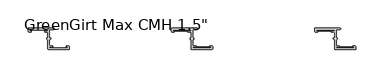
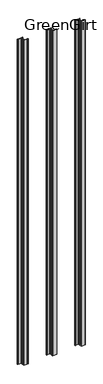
"""IFC4 building model written with IfcOpenShell, lengths in millimetres: fastener geometry."""

from ifc_helpers import new_model, si_unit, frame, origin, origin_with_axes, place, context, project, spatial, polyline, circle_curve, outline, extrude, source, transform, mapped, element, save
from ifc_brep_helpers import plane_surface, cylinder_surface, revolved_surface, advanced_brep


def fastener_7959c945(model_context):
    return source(origin(), model_context, "Body", "SolidModel", [
        advanced_brep(
        [(2340.102, -3.556, 3048.0), (2371.09, -3.556, 3048.0), (2371.09, -5.2832, 3048.0), (2366.899, -5.2832, 3048.0), (2366.899, -7.3152, 3048.0), (2371.09, -7.3152, 3048.0), (2371.852, -8.0772, 3048.0), (2371.852, -17.7601563, 3048.0), (2371.0035567, -17.7601563, 3048.0), (2371.0035567, -20.4288947, 3048.0), (2371.852, -20.4288947, 3048.0), (2371.852, -37.3379766, 3048.0), (2372.614, -38.0999766, 3048.0), (2408.8513242, -38.1, 3048.0), (2409.571, -37.3379766, 3048.0), (2409.571, -33.7057766, 3048.0), (2407.539, -31.6737766, 3048.0), (2405.253, -31.6737766, 3048.0), (2405.253, -33.7057766, 3048.0), (2406.269, -33.7057766, 3048.0), (2406.269, -35.4329766, 3048.0), (2375.281, -35.4329766, 3048.0), (2375.281, -33.7057766, 3048.0), (2379.472, -33.7057766, 3048.0), (2379.472, -31.6737766, 3048.0), (2375.281, -31.6737766, 3048.0), (2374.519, -30.9117766, 3048.0), (2374.519, -20.4279799, 3048.0), (2375.3679007, -20.4279799, 3048.0), (2375.3679007, -17.7601563, 3048.0), (2374.519, -17.7601563, 3048.0), (2374.519, -3.429, 3048.0), (2375.281, -2.667, 3048.0), (2381.377, -2.667, 3048.0), (2381.377, 0.0, 3048.0), (2337.562, 0.0, 3048.0), (2336.8, -0.762, 3048.0), (2336.8, -5.2832, 3048.0), (2338.832, -7.3152, 3048.0), (2341.118, -7.3152, 3048.0), (2341.118, -5.2832, 3048.0), (2340.102, -5.2832, 3048.0), (2340.102, -3.556, 0.0), (2340.102, -5.2832, 0.0), (2341.118, -5.2832, 0.0), (2341.118, -7.3152, 0.0), (2338.832, -7.3152, 0.0), (2336.8, -5.2832, 0.0), (2336.8, -0.762, 0.0), (2337.562, 0.0, 0.0), (2381.377, 0.0, 0.0), (2381.377, -2.667, 0.0), (2375.281, -2.667, 0.0), (2374.519, -3.429, 0.0), (2374.519, -17.7601563, 0.0), (2375.3679007, -17.7601563, 0.0), (2375.3679007, -20.4279799, 0.0), (2374.519, -20.4279799, 0.0), (2374.519, -30.9117766, 0.0), (2375.281, -31.6737766, 0.0), (2379.472, -31.6737766, 0.0), (2379.472, -33.7057766, 0.0), (2375.281, -33.7057766, 0.0), (2375.281, -35.4329766, 0.0), (2406.269, -35.4329766, 0.0), (2406.269, -33.7057766, 0.0), (2405.253, -33.7057766, 0.0), (2405.253, -31.6737766, 0.0), (2407.539, -31.6737766, 0.0), (2409.571, -33.7057766, 0.0), (2409.571, -37.3379766, 0.0), (2408.809, -38.0999766, 0.0), (2372.7467826, -38.1, 0.0), (2371.852, -37.3379766, 0.0), (2371.852, -20.4288947, 0.0), (2371.0035567, -20.4288947, 0.0), (2371.0035567, -17.7601563, 0.0), (2371.852, -17.7601563, 0.0), (2371.852, -8.0772, 0.0), (2371.09, -7.3152, 0.0), (2366.899, -7.3152, 0.0), (2366.899, -5.2832, 0.0), (2371.09, -5.2832, 0.0), (2371.09, -3.556, 0.0)],
        [
            (0, 1),
            (1, 2, circle_curve(frame((2371.09, -4.4196, 3048.0), z_axis=(0.0, 0.0, -1.0), x_axis=(1.0, 0.0, 0.0)), 0.8636)),
            (2, 3),
            (3, 4, circle_curve(frame((2366.899, -6.2992, 3048.0), z_axis=(0.0, 0.0, 1.0), x_axis=(1.0, 0.0, 0.0)), 1.016)),
            (4, 5),
            (5, 6, circle_curve(frame((2371.09, -8.0772, 3048.0), z_axis=(0.0, 0.0, -1.0), x_axis=(1.0, 0.0, 0.0)), 0.762)),
            (6, 7),
            (7, 8),
            (8, 9, circle_curve(frame((2371.0035567, -19.0945255, 3048.0), z_axis=(0.0, 0.0, 1.0), x_axis=(1.0, 0.0, 0.0)), 1.3343692)),
            (9, 10),
            (10, 11),
            (11, 12, circle_curve(frame((2372.614, -37.3379766, 3048.0), z_axis=(0.0, 0.0, 1.0), x_axis=(1.0, 0.0, 0.0)), 0.762)),
            (12, 13),
            (13, 14, circle_curve(frame((2408.809, -37.3379766, 3048.0), z_axis=(0.0, 0.0, 1.0), x_axis=(1.0, 0.0, 0.0)), 0.762)),
            (14, 15),
            (15, 16, circle_curve(frame((2407.539, -33.7057766, 3048.0), z_axis=(0.0, 0.0, 1.0), x_axis=(1.0, 0.0, 0.0)), 2.032)),
            (16, 17),
            (17, 18, circle_curve(frame((2405.253, -32.6897766, 3048.0), z_axis=(0.0, 0.0, 1.0), x_axis=(1.0, 0.0, 0.0)), 1.016)),
            (18, 19),
            (19, 20, circle_curve(frame((2406.269, -34.5693766, 3048.0), z_axis=(0.0, 0.0, -1.0), x_axis=(1.0, 0.0, 0.0)), 0.8636)),
            (20, 21),
            (21, 22, circle_curve(frame((2375.281, -34.5693766, 3048.0), z_axis=(0.0, 0.0, -1.0), x_axis=(1.0, 0.0, 0.0)), 0.8636)),
            (22, 23),
            (23, 24, circle_curve(frame((2379.472, -32.6897766, 3048.0), z_axis=(0.0, 0.0, 1.0), x_axis=(1.0, 0.0, 0.0)), 1.016)),
            (24, 25),
            (25, 26, circle_curve(frame((2375.281, -30.9117766, 3048.0), z_axis=(0.0, 0.0, -1.0), x_axis=(1.0, 0.0, 0.0)), 0.762)),
            (26, 27),
            (27, 28),
            (28, 29, circle_curve(frame((2375.3679007, -19.0940681, 3048.0), z_axis=(0.0, 0.0, 1.0), x_axis=(1.0, 0.0, 0.0)), 1.3339118)),
            (29, 30),
            (30, 31),
            (31, 32, circle_curve(frame((2375.281, -3.429, 3048.0), z_axis=(0.0, 0.0, -1.0), x_axis=(1.0, 0.0, 0.0)), 0.762)),
            (32, 33),
            (33, 34, circle_curve(frame((2381.377, -1.3335, 3048.0), z_axis=(0.0, 0.0, 1.0), x_axis=(1.0, 0.0, 0.0)), 1.3335)),
            (34, 35),
            (35, 36, circle_curve(frame((2337.562, -0.762, 3048.0), z_axis=(0.0, 0.0, 1.0), x_axis=(1.0, 0.0, 0.0)), 0.762)),
            (36, 37),
            (37, 38, circle_curve(frame((2338.832, -5.2832, 3048.0), z_axis=(0.0, 0.0, 1.0), x_axis=(1.0, 0.0, 0.0)), 2.032)),
            (38, 39),
            (39, 40, circle_curve(frame((2341.118, -6.2992, 3048.0), z_axis=(0.0, 0.0, 1.0), x_axis=(1.0, 0.0, 0.0)), 1.016)),
            (40, 41),
            (41, 0, circle_curve(frame((2340.102, -4.4196, 3048.0), z_axis=(0.0, 0.0, -1.0), x_axis=(1.0, 0.0, 0.0)), 0.8636)),
            (42, 43, circle_curve(frame((2340.102, -4.4196, 0.0), z_axis=(0.0, 0.0, 1.0), x_axis=(1.0, 0.0, 0.0)), 0.8636)),
            (43, 44),
            (44, 45, circle_curve(frame((2341.118, -6.2992, 0.0), z_axis=(0.0, 0.0, -1.0), x_axis=(1.0, 0.0, 0.0)), 1.016)),
            (45, 46),
            (46, 47, circle_curve(frame((2338.832, -5.2832, 0.0), z_axis=(0.0, 0.0, -1.0), x_axis=(1.0, 0.0, 0.0)), 2.032)),
            (47, 48),
            (48, 49, circle_curve(frame((2337.562, -0.762, 0.0), z_axis=(0.0, 0.0, -1.0), x_axis=(1.0, 0.0, 0.0)), 0.762)),
            (49, 50),
            (50, 51, circle_curve(frame((2381.377, -1.3335, 0.0), z_axis=(0.0, 0.0, -1.0), x_axis=(1.0, 0.0, 0.0)), 1.3335)),
            (51, 52),
            (52, 53, circle_curve(frame((2375.281, -3.429, 0.0), z_axis=(0.0, 0.0, 1.0), x_axis=(1.0, 0.0, 0.0)), 0.762)),
            (53, 54),
            (54, 55),
            (55, 56, circle_curve(frame((2375.3679007, -19.0940681, 0.0), z_axis=(0.0, 0.0, -1.0), x_axis=(1.0, 0.0, 0.0)), 1.3339118)),
            (56, 57),
            (57, 58),
            (58, 59, circle_curve(frame((2375.281, -30.9117766, 0.0), z_axis=(0.0, 0.0, 1.0), x_axis=(1.0, 0.0, 0.0)), 0.762)),
            (59, 60),
            (60, 61, circle_curve(frame((2379.472, -32.6897766, 0.0), z_axis=(0.0, 0.0, -1.0), x_axis=(1.0, 0.0, 0.0)), 1.016)),
            (61, 62),
            (62, 63, circle_curve(frame((2375.281, -34.5693766, 0.0), z_axis=(0.0, 0.0, 1.0), x_axis=(1.0, 0.0, 0.0)), 0.8636)),
            (63, 64),
            (64, 65, circle_curve(frame((2406.269, -34.5693766, 0.0), z_axis=(0.0, 0.0, 1.0), x_axis=(1.0, 0.0, 0.0)), 0.8636)),
            (65, 66),
            (66, 67, circle_curve(frame((2405.253, -32.6897766, 0.0), z_axis=(0.0, 0.0, -1.0), x_axis=(1.0, 0.0, 0.0)), 1.016)),
            (67, 68),
            (68, 69, circle_curve(frame((2407.539, -33.7057766, 0.0), z_axis=(0.0, 0.0, -1.0), x_axis=(1.0, 0.0, 0.0)), 2.032)),
            (69, 70),
            (70, 71, circle_curve(frame((2408.809, -37.3379766, 0.0), z_axis=(0.0, 0.0, -1.0), x_axis=(1.0, 0.0, 0.0)), 0.762)),
            (71, 72),
            (72, 73, circle_curve(frame((2372.614, -37.3379766, 0.0), z_axis=(0.0, 0.0, -1.0), x_axis=(1.0, 0.0, 0.0)), 0.762)),
            (73, 74),
            (74, 75),
            (75, 76, circle_curve(frame((2371.0035567, -19.0945255, 0.0), z_axis=(0.0, 0.0, -1.0), x_axis=(1.0, 0.0, 0.0)), 1.3343692)),
            (76, 77),
            (77, 78),
            (78, 79, circle_curve(frame((2371.09, -8.0772, 0.0), z_axis=(0.0, 0.0, 1.0), x_axis=(1.0, 0.0, 0.0)), 0.762)),
            (79, 80),
            (80, 81, circle_curve(frame((2366.899, -6.2992, 0.0), z_axis=(0.0, 0.0, -1.0), x_axis=(1.0, 0.0, 0.0)), 1.016)),
            (81, 82),
            (82, 83, circle_curve(frame((2371.09, -4.4196, 0.0), z_axis=(0.0, 0.0, 1.0), x_axis=(1.0, 0.0, 0.0)), 0.8636)),
            (83, 42),
            (0, 42),
            (83, 1),
            (82, 2),
            (81, 3),
            (80, 4),
            (79, 5),
            (78, 6),
            (77, 7),
            (76, 8),
            (75, 9),
            (74, 10),
            (73, 11),
            (72, 12),
            (71, 13),
            (70, 14),
            (69, 15),
            (68, 16),
            (67, 17),
            (66, 18),
            (65, 19),
            (64, 20),
            (63, 21),
            (62, 22),
            (61, 23),
            (60, 24),
            (59, 25),
            (58, 26),
            (57, 27),
            (56, 28),
            (55, 29),
            (54, 30),
            (53, 31),
            (52, 32),
            (51, 33),
            (50, 34),
            (49, 35),
            (48, 36),
            (47, 37),
            (46, 38),
            (45, 39),
            (44, 40),
            (43, 41),
        ],
        [
            plane_surface(frame((2371.09, -3.556, 3048.0), z_axis=(0.0, 0.0, 1.0), x_axis=(1.0, 0.0, 0.0))),
            plane_surface(frame((2371.09, -3.556, 0.0), z_axis=(0.0, 0.0, -1.0), x_axis=(-1.0, 0.0, 0.0))),
            plane_surface(frame((2340.102, -3.556, 3048.0), z_axis=(0.0, -1.0, 0.0), x_axis=(0.0, 0.0, -1.0))),
            revolved_surface(polyline([(2371.9536000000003, -4.4196, 0.0), (2371.9536000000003, -4.4196, 3048.0)]), (2371.09, -4.4196, 0.0), (0.0, 0.0, -1.0)),
            plane_surface(frame((2371.09, -5.2832, 3048.0), z_axis=(0.0, 1.0, 0.0), x_axis=(0.0, 0.0, -1.0))),
            cylinder_surface(frame((2366.899, -6.2992, 0.0), z_axis=(0.0, 0.0, 1.0), x_axis=(1.0, 0.0, 0.0)), 1.016),
            plane_surface(frame((2366.899, -7.3152, 3048.0), z_axis=(0.0, -1.0, 0.0), x_axis=(0.0, 0.0, -1.0))),
            revolved_surface(polyline([(2371.8520000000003, -8.0772, 0.0), (2371.8520000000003, -8.0772, 3048.0)]), (2371.09, -8.0772, 0.0), (0.0, 0.0, -1.0)),
            plane_surface(frame((2371.852, -8.0772, 3048.0), z_axis=(-1.0, 0.0, 0.0), x_axis=(0.0, 0.0, -1.0))),
            plane_surface(frame((2371.852, -17.7601563, 3048.0), z_axis=(0.0, 1.0, 0.0), x_axis=(0.0, 0.0, -1.0))),
            cylinder_surface(frame((2371.0035567, -19.0945255, 0.0), z_axis=(0.0, 0.0, 1.0), x_axis=(1.0, 0.0, 0.0)), 1.3343692),
            plane_surface(frame((2371.0035567, -20.4288947, 3048.0), z_axis=(0.0, -1.0, 0.0), x_axis=(0.0, 0.0, -1.0))),
            plane_surface(frame((2371.852, -20.4288947, 3048.0), z_axis=(-1.0, 0.0, 0.0), x_axis=(0.0, 0.0, -1.0))),
            cylinder_surface(frame((2372.614, -37.3379766, 0.0), z_axis=(0.0, 0.0, 1.0), x_axis=(1.0, 0.0, 0.0)), 0.762),
            plane_surface(frame((2372.7467826, -38.1, 3048.0), z_axis=(0.0, -1.0, 0.0), x_axis=(0.0, 0.0, -1.0))),
            cylinder_surface(frame((2408.809, -37.3379766, 0.0), z_axis=(0.0, 0.0, 1.0), x_axis=(1.0, 0.0, 0.0)), 0.762),
            plane_surface(frame((2409.571, -37.3379766, 3048.0), z_axis=(1.0, 1.094695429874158e-12, 0.0), x_axis=(0.0, 0.0, -1.0))),
            cylinder_surface(frame((2407.539, -33.7057766, 0.0), z_axis=(0.0, 0.0, 1.0), x_axis=(1.0, 0.0, 0.0)), 2.032),
            plane_surface(frame((2407.539, -31.6737766, 3048.0), z_axis=(0.0, 1.0, 0.0), x_axis=(0.0, 0.0, -1.0))),
            cylinder_surface(frame((2405.253, -32.6897766, 0.0), z_axis=(0.0, 0.0, 1.0), x_axis=(1.0, 0.0, 0.0)), 1.016),
            plane_surface(frame((2405.253, -33.7057766, 3048.0), z_axis=(0.0, -1.0, 0.0), x_axis=(0.0, 0.0, -1.0))),
            revolved_surface(polyline([(2407.1326, -34.5693766, 0.0), (2407.1326, -34.5693766, 3048.0)]), (2406.269, -34.5693766, 0.0), (0.0, 0.0, -1.0)),
            plane_surface(frame((2406.269, -35.4329766, 3048.0), z_axis=(0.0, 1.0, 0.0), x_axis=(0.0, 0.0, -1.0))),
            revolved_surface(polyline([(2376.1446, -34.5693766, 0.0), (2376.1446, -34.5693766, 3048.0)]), (2375.281, -34.5693766, 0.0), (0.0, 0.0, -1.0)),
            plane_surface(frame((2375.281, -33.7057766, 3048.0), z_axis=(0.0, -1.0, 0.0), x_axis=(0.0, 0.0, -1.0))),
            cylinder_surface(frame((2379.472, -32.6897766, 0.0), z_axis=(0.0, 0.0, 1.0), x_axis=(1.0, 0.0, 0.0)), 1.016),
            plane_surface(frame((2379.472, -31.6737766, 3048.0), z_axis=(0.0, 1.0, 0.0), x_axis=(0.0, 0.0, -1.0))),
            revolved_surface(polyline([(2376.043, -30.9117766, 0.0), (2376.043, -30.9117766, 3048.0)]), (2375.281, -30.9117766, 0.0), (0.0, 0.0, -1.0)),
            plane_surface(frame((2374.519, -30.9117766, 3048.0), z_axis=(1.0, 0.0, 0.0), x_axis=(0.0, 0.0, -1.0))),
            plane_surface(frame((2374.519, -20.4279799, 3048.0), z_axis=(0.0, -1.0, 0.0), x_axis=(0.0, 0.0, -1.0))),
            cylinder_surface(frame((2375.3679007, -19.0940681, 0.0), z_axis=(0.0, 0.0, 1.0), x_axis=(1.0, 0.0, 0.0)), 1.3339118),
            plane_surface(frame((2375.3679007, -17.7601563, 3048.0), z_axis=(0.0, 1.0, 0.0), x_axis=(0.0, 0.0, -1.0))),
            plane_surface(frame((2374.519, -17.7601563, 3048.0), z_axis=(1.0, 0.0, 0.0), x_axis=(0.0, 0.0, -1.0))),
            revolved_surface(polyline([(2376.043, -3.429, 0.0), (2376.043, -3.429, 3048.0)]), (2375.281, -3.429, 0.0), (0.0, 0.0, -1.0)),
            plane_surface(frame((2375.281, -2.667, 3048.0), z_axis=(0.0, -1.0, 0.0), x_axis=(0.0, 0.0, -1.0))),
            cylinder_surface(frame((2381.377, -1.3335, 0.0), z_axis=(0.0, 0.0, 1.0), x_axis=(1.0, 0.0, 0.0)), 1.3335),
            plane_surface(frame((2381.377, 0.0, 3048.0), z_axis=(0.0, 1.0, 0.0), x_axis=(0.0, 0.0, -1.0))),
            cylinder_surface(frame((2337.562, -0.762, 0.0), z_axis=(0.0, 0.0, 1.0), x_axis=(1.0, 0.0, 0.0)), 0.762),
            plane_surface(frame((2336.8, -0.762, 3048.0), z_axis=(-1.0, 1.1909948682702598e-12, 0.0), x_axis=(0.0, 0.0, -1.0))),
            cylinder_surface(frame((2338.832, -5.2832, 0.0), z_axis=(0.0, 0.0, 1.0), x_axis=(1.0, 0.0, 0.0)), 2.032),
            plane_surface(frame((2338.832, -7.3152, 3048.0), z_axis=(0.0, -1.0, 0.0), x_axis=(0.0, 0.0, -1.0))),
            cylinder_surface(frame((2341.118, -6.2992, 0.0), z_axis=(0.0, 0.0, 1.0), x_axis=(1.0, 0.0, 0.0)), 1.016),
            plane_surface(frame((2341.118, -5.2832, 3048.0), z_axis=(0.0, 1.0, 0.0), x_axis=(0.0, 0.0, -1.0))),
            revolved_surface(polyline([(2340.9656, -4.4196, 0.0), (2340.9656, -4.4196, 3048.0)]), (2340.102, -4.4196, 0.0), (0.0, 0.0, -1.0)),
        ],
        [
            (0, [[1, 2, 3, 4, 5, 6, 7, 8, 9, 10, 11, 12, 13, 14, 15, 16, 17, 18, 19, 20, 21, 22, 23, 24, 25, 26, 27, 28, 29, 30, 31, 32, 33, 34, 35, 36, 37, 38, 39, 40, 41, 42]]),
            (1, [[43, 44, 45, 46, 47, 48, 49, 50, 51, 52, 53, 54, 55, 56, 57, 58, 59, 60, 61, 62, 63, 64, 65, 66, 67, 68, 69, 70, 71, 72, 73, 74, 75, 76, 77, 78, 79, 80, 81, 82, 83, 84]]),
            (2, [[-1, 85, -84, 86]]),
            (3, [[-2, -86, -83, 87]]),
            (4, [[-3, -87, -82, 88]]),
            (5, [[-4, -88, -81, 89]]),
            (6, [[-5, -89, -80, 90]]),
            (7, [[-6, -90, -79, 91]]),
            (8, [[-7, -91, -78, 92]]),
            (9, [[-8, -92, -77, 93]]),
            (10, [[-9, -93, -76, 94]]),
            (11, [[-10, -94, -75, 95]]),
            (12, [[-11, -95, -74, 96]]),
            (13, [[-12, -96, -73, 97]]),
            (14, [[-13, -97, -72, 98]]),
            (15, [[-14, -98, -71, 99]]),
            (16, [[-15, -99, -70, 100]]),
            (17, [[-16, -100, -69, 101]]),
            (18, [[-17, -101, -68, 102]]),
            (19, [[-18, -102, -67, 103]]),
            (20, [[-19, -103, -66, 104]]),
            (21, [[-20, -104, -65, 105]]),
            (22, [[-21, -105, -64, 106]]),
            (23, [[-22, -106, -63, 107]]),
            (24, [[-23, -107, -62, 108]]),
            (25, [[-24, -108, -61, 109]]),
            (26, [[-25, -109, -60, 110]]),
            (27, [[-26, -110, -59, 111]]),
            (28, [[-27, -111, -58, 112]]),
            (29, [[-28, -112, -57, 113]]),
            (30, [[-29, -113, -56, 114]]),
            (31, [[-30, -114, -55, 115]]),
            (32, [[-31, -115, -54, 116]]),
            (33, [[-32, -116, -53, 117]]),
            (34, [[-33, -117, -52, 118]]),
            (35, [[-34, -118, -51, 119]]),
            (36, [[-35, -119, -50, 120]]),
            (37, [[-36, -120, -49, 121]]),
            (38, [[-37, -121, -48, 122]]),
            (39, [[-38, -122, -47, 123]]),
            (40, [[-39, -123, -46, 124]]),
            (41, [[-40, -124, -45, 125]]),
            (42, [[-41, -125, -44, 126]]),
            (43, [[-42, -126, -43, -85]]),
        ],
    ),
        extrude(outline(polyline([(2371.09, -3.556), (2371.09, -5.2832), (2340.102, -5.2832), (2340.102, -3.556), (2371.09, -3.556)])), origin_with_axes(), (0.0, 0.0, 1.0), 3048.0),
        extrude(outline(polyline([(2406.269, -33.7057766), (2406.269, -35.4329766), (2375.281, -35.4329766), (2375.281, -33.7057766), (2406.269, -33.7057766)])), origin_with_axes(), (0.0, 0.0, 1.0), 3048.0),
        advanced_brep(
        [(2086.102, -3.556, 3048.0), (2117.09, -3.556, 3048.0), (2117.09, -5.2832, 3048.0), (2112.899, -5.2832, 3048.0), (2112.899, -7.3152, 3048.0), (2117.09, -7.3152, 3048.0), (2117.852, -8.0772, 3048.0), (2117.852, -17.7601563, 3048.0), (2117.0035567, -17.7601563, 3048.0), (2117.0035567, -20.4288947, 3048.0), (2117.852, -20.4288947, 3048.0), (2117.852, -37.3379766, 3048.0), (2118.614, -38.0999766, 3048.0), (2154.8513242, -38.1, 3048.0), (2155.571, -37.3379766, 3048.0), (2155.571, -33.7057766, 3048.0), (2153.539, -31.6737766, 3048.0), (2151.253, -31.6737766, 3048.0), (2151.253, -33.7057766, 3048.0), (2152.269, -33.7057766, 3048.0), (2152.269, -35.4329766, 3048.0), (2121.281, -35.4329766, 3048.0), (2121.281, -33.7057766, 3048.0), (2125.472, -33.7057766, 3048.0), (2125.472, -31.6737766, 3048.0), (2121.281, -31.6737766, 3048.0), (2120.519, -30.9117766, 3048.0), (2120.519, -20.4279799, 3048.0), (2121.3679007, -20.4279799, 3048.0), (2121.3679007, -17.7601563, 3048.0), (2120.519, -17.7601563, 3048.0), (2120.519, -3.429, 3048.0), (2121.281, -2.667, 3048.0), (2127.377, -2.667, 3048.0), (2127.377, 0.0, 3048.0), (2083.562, 0.0, 3048.0), (2082.8, -0.762, 3048.0), (2082.8, -5.2832, 3048.0), (2084.832, -7.3152, 3048.0), (2087.118, -7.3152, 3048.0), (2087.118, -5.2832, 3048.0), (2086.102, -5.2832, 3048.0), (2086.102, -3.556, 0.0), (2086.102, -5.2832, 0.0), (2087.118, -5.2832, 0.0), (2087.118, -7.3152, 0.0), (2084.832, -7.3152, 0.0), (2082.8, -5.2832, 0.0), (2082.8, -0.762, 0.0), (2083.562, 0.0, 0.0), (2127.377, 0.0, 0.0), (2127.377, -2.667, 0.0), (2121.281, -2.667, 0.0), (2120.519, -3.429, 0.0), (2120.519, -17.7601563, 0.0), (2121.3679007, -17.7601563, 0.0), (2121.3679007, -20.4279799, 0.0), (2120.519, -20.4279799, 0.0), (2120.519, -30.9117766, 0.0), (2121.281, -31.6737766, 0.0), (2125.472, -31.6737766, 0.0), (2125.472, -33.7057766, 0.0), (2121.281, -33.7057766, 0.0), (2121.281, -35.4329766, 0.0), (2152.269, -35.4329766, 0.0), (2152.269, -33.7057766, 0.0), (2151.253, -33.7057766, 0.0), (2151.253, -31.6737766, 0.0), (2153.539, -31.6737766, 0.0), (2155.571, -33.7057766, 0.0), (2155.571, -37.3379766, 0.0), (2154.809, -38.0999766, 0.0), (2118.7467826, -38.1, 0.0), (2117.852, -37.3379766, 0.0), (2117.852, -20.4288947, 0.0), (2117.0035567, -20.4288947, 0.0), (2117.0035567, -17.7601563, 0.0), (2117.852, -17.7601563, 0.0), (2117.852, -8.0772, 0.0), (2117.09, -7.3152, 0.0), (2112.899, -7.3152, 0.0), (2112.899, -5.2832, 0.0), (2117.09, -5.2832, 0.0), (2117.09, -3.556, 0.0)],
        [
            (0, 1),
            (1, 2, circle_curve(frame((2117.09, -4.4196, 3048.0), z_axis=(0.0, 0.0, -1.0), x_axis=(1.0, 0.0, 0.0)), 0.8636)),
            (2, 3),
            (3, 4, circle_curve(frame((2112.899, -6.2992, 3048.0), z_axis=(0.0, 0.0, 1.0), x_axis=(1.0, 0.0, 0.0)), 1.016)),
            (4, 5),
            (5, 6, circle_curve(frame((2117.09, -8.0772, 3048.0), z_axis=(0.0, 0.0, -1.0), x_axis=(1.0, 0.0, 0.0)), 0.762)),
            (6, 7),
            (7, 8),
            (8, 9, circle_curve(frame((2117.0035567, -19.0945255, 3048.0), z_axis=(0.0, 0.0, 1.0), x_axis=(1.0, 0.0, 0.0)), 1.3343692)),
            (9, 10),
            (10, 11),
            (11, 12, circle_curve(frame((2118.614, -37.3379766, 3048.0), z_axis=(0.0, 0.0, 1.0), x_axis=(1.0, 0.0, 0.0)), 0.762)),
            (12, 13),
            (13, 14, circle_curve(frame((2154.809, -37.3379766, 3048.0), z_axis=(0.0, 0.0, 1.0), x_axis=(1.0, 0.0, 0.0)), 0.762)),
            (14, 15),
            (15, 16, circle_curve(frame((2153.539, -33.7057766, 3048.0), z_axis=(0.0, 0.0, 1.0), x_axis=(1.0, 0.0, 0.0)), 2.032)),
            (16, 17),
            (17, 18, circle_curve(frame((2151.253, -32.6897766, 3048.0), z_axis=(0.0, 0.0, 1.0), x_axis=(1.0, 0.0, 0.0)), 1.016)),
            (18, 19),
            (19, 20, circle_curve(frame((2152.269, -34.5693766, 3048.0), z_axis=(0.0, 0.0, -1.0), x_axis=(1.0, 0.0, 0.0)), 0.8636)),
            (20, 21),
            (21, 22, circle_curve(frame((2121.281, -34.5693766, 3048.0), z_axis=(0.0, 0.0, -1.0), x_axis=(1.0, 0.0, 0.0)), 0.8636)),
            (22, 23),
            (23, 24, circle_curve(frame((2125.472, -32.6897766, 3048.0), z_axis=(0.0, 0.0, 1.0), x_axis=(1.0, 0.0, 0.0)), 1.016)),
            (24, 25),
            (25, 26, circle_curve(frame((2121.281, -30.9117766, 3048.0), z_axis=(0.0, 0.0, -1.0), x_axis=(1.0, 0.0, 0.0)), 0.762)),
            (26, 27),
            (27, 28),
            (28, 29, circle_curve(frame((2121.3679007, -19.0940681, 3048.0), z_axis=(0.0, 0.0, 1.0), x_axis=(1.0, 0.0, 0.0)), 1.3339118)),
            (29, 30),
            (30, 31),
            (31, 32, circle_curve(frame((2121.281, -3.429, 3048.0), z_axis=(0.0, 0.0, -1.0), x_axis=(1.0, 0.0, 0.0)), 0.762)),
            (32, 33),
            (33, 34, circle_curve(frame((2127.377, -1.3335, 3048.0), z_axis=(0.0, 0.0, 1.0), x_axis=(1.0, 0.0, 0.0)), 1.3335)),
            (34, 35),
            (35, 36, circle_curve(frame((2083.562, -0.762, 3048.0), z_axis=(0.0, 0.0, 1.0), x_axis=(1.0, 0.0, 0.0)), 0.762)),
            (36, 37),
            (37, 38, circle_curve(frame((2084.832, -5.2832, 3048.0), z_axis=(0.0, 0.0, 1.0), x_axis=(1.0, 0.0, 0.0)), 2.032)),
            (38, 39),
            (39, 40, circle_curve(frame((2087.118, -6.2992, 3048.0), z_axis=(0.0, 0.0, 1.0), x_axis=(1.0, 0.0, 0.0)), 1.016)),
            (40, 41),
            (41, 0, circle_curve(frame((2086.102, -4.4196, 3048.0), z_axis=(0.0, 0.0, -1.0), x_axis=(1.0, 0.0, 0.0)), 0.8636)),
            (42, 43, circle_curve(frame((2086.102, -4.4196, 0.0), z_axis=(0.0, 0.0, 1.0), x_axis=(1.0, 0.0, 0.0)), 0.8636)),
            (43, 44),
            (44, 45, circle_curve(frame((2087.118, -6.2992, 0.0), z_axis=(0.0, 0.0, -1.0), x_axis=(1.0, 0.0, 0.0)), 1.016)),
            (45, 46),
            (46, 47, circle_curve(frame((2084.832, -5.2832, 0.0), z_axis=(0.0, 0.0, -1.0), x_axis=(1.0, 0.0, 0.0)), 2.032)),
            (47, 48),
            (48, 49, circle_curve(frame((2083.562, -0.762, 0.0), z_axis=(0.0, 0.0, -1.0), x_axis=(1.0, 0.0, 0.0)), 0.762)),
            (49, 50),
            (50, 51, circle_curve(frame((2127.377, -1.3335, 0.0), z_axis=(0.0, 0.0, -1.0), x_axis=(1.0, 0.0, 0.0)), 1.3335)),
            (51, 52),
            (52, 53, circle_curve(frame((2121.281, -3.429, 0.0), z_axis=(0.0, 0.0, 1.0), x_axis=(1.0, 0.0, 0.0)), 0.762)),
            (53, 54),
            (54, 55),
            (55, 56, circle_curve(frame((2121.3679007, -19.0940681, 0.0), z_axis=(0.0, 0.0, -1.0), x_axis=(1.0, 0.0, 0.0)), 1.3339118)),
            (56, 57),
            (57, 58),
            (58, 59, circle_curve(frame((2121.281, -30.9117766, 0.0), z_axis=(0.0, 0.0, 1.0), x_axis=(1.0, 0.0, 0.0)), 0.762)),
            (59, 60),
            (60, 61, circle_curve(frame((2125.472, -32.6897766, 0.0), z_axis=(0.0, 0.0, -1.0), x_axis=(1.0, 0.0, 0.0)), 1.016)),
            (61, 62),
            (62, 63, circle_curve(frame((2121.281, -34.5693766, 0.0), z_axis=(0.0, 0.0, 1.0), x_axis=(1.0, 0.0, 0.0)), 0.8636)),
            (63, 64),
            (64, 65, circle_curve(frame((2152.269, -34.5693766, 0.0), z_axis=(0.0, 0.0, 1.0), x_axis=(1.0, 0.0, 0.0)), 0.8636)),
            (65, 66),
            (66, 67, circle_curve(frame((2151.253, -32.6897766, 0.0), z_axis=(0.0, 0.0, -1.0), x_axis=(1.0, 0.0, 0.0)), 1.016)),
            (67, 68),
            (68, 69, circle_curve(frame((2153.539, -33.7057766, 0.0), z_axis=(0.0, 0.0, -1.0), x_axis=(1.0, 0.0, 0.0)), 2.032)),
            (69, 70),
            (70, 71, circle_curve(frame((2154.809, -37.3379766, 0.0), z_axis=(0.0, 0.0, -1.0), x_axis=(1.0, 0.0, 0.0)), 0.762)),
            (71, 72),
            (72, 73, circle_curve(frame((2118.614, -37.3379766, 0.0), z_axis=(0.0, 0.0, -1.0), x_axis=(1.0, 0.0, 0.0)), 0.762)),
            (73, 74),
            (74, 75),
            (75, 76, circle_curve(frame((2117.0035567, -19.0945255, 0.0), z_axis=(0.0, 0.0, -1.0), x_axis=(1.0, 0.0, 0.0)), 1.3343692)),
            (76, 77),
            (77, 78),
            (78, 79, circle_curve(frame((2117.09, -8.0772, 0.0), z_axis=(0.0, 0.0, 1.0), x_axis=(1.0, 0.0, 0.0)), 0.762)),
            (79, 80),
            (80, 81, circle_curve(frame((2112.899, -6.2992, 0.0), z_axis=(0.0, 0.0, -1.0), x_axis=(1.0, 0.0, 0.0)), 1.016)),
            (81, 82),
            (82, 83, circle_curve(frame((2117.09, -4.4196, 0.0), z_axis=(0.0, 0.0, 1.0), x_axis=(1.0, 0.0, 0.0)), 0.8636)),
            (83, 42),
            (0, 42),
            (83, 1),
            (82, 2),
            (81, 3),
            (80, 4),
            (79, 5),
            (78, 6),
            (77, 7),
            (76, 8),
            (75, 9),
            (74, 10),
            (73, 11),
            (72, 12),
            (71, 13),
            (70, 14),
            (69, 15),
            (68, 16),
            (67, 17),
            (66, 18),
            (65, 19),
            (64, 20),
            (63, 21),
            (62, 22),
            (61, 23),
            (60, 24),
            (59, 25),
            (58, 26),
            (57, 27),
            (56, 28),
            (55, 29),
            (54, 30),
            (53, 31),
            (52, 32),
            (51, 33),
            (50, 34),
            (49, 35),
            (48, 36),
            (47, 37),
            (46, 38),
            (45, 39),
            (44, 40),
            (43, 41),
        ],
        [
            plane_surface(frame((2117.09, -3.556, 3048.0), z_axis=(0.0, 0.0, 1.0), x_axis=(1.0, 0.0, 0.0))),
            plane_surface(frame((2117.09, -3.556, 0.0), z_axis=(0.0, 0.0, -1.0), x_axis=(-1.0, 0.0, 0.0))),
            plane_surface(frame((2086.102, -3.556, 3048.0), z_axis=(0.0, -1.0, 0.0), x_axis=(0.0, 0.0, -1.0))),
            revolved_surface(polyline([(2117.9536000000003, -4.4196, 0.0), (2117.9536000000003, -4.4196, 3048.0)]), (2117.09, -4.4196, 0.0), (0.0, 0.0, -1.0)),
            plane_surface(frame((2117.09, -5.2832, 3048.0), z_axis=(0.0, 1.0, 0.0), x_axis=(0.0, 0.0, -1.0))),
            cylinder_surface(frame((2112.899, -6.2992, 0.0), z_axis=(0.0, 0.0, 1.0), x_axis=(1.0, 0.0, 0.0)), 1.016),
            plane_surface(frame((2112.899, -7.3152, 3048.0), z_axis=(0.0, -1.0, 0.0), x_axis=(0.0, 0.0, -1.0))),
            revolved_surface(polyline([(2117.8520000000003, -8.0772, 0.0), (2117.8520000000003, -8.0772, 3048.0)]), (2117.09, -8.0772, 0.0), (0.0, 0.0, -1.0)),
            plane_surface(frame((2117.852, -8.0772, 3048.0), z_axis=(-1.0, 0.0, 0.0), x_axis=(0.0, 0.0, -1.0))),
            plane_surface(frame((2117.852, -17.7601563, 3048.0), z_axis=(0.0, 1.0, 0.0), x_axis=(0.0, 0.0, -1.0))),
            cylinder_surface(frame((2117.0035567, -19.0945255, 0.0), z_axis=(0.0, 0.0, 1.0), x_axis=(1.0, 0.0, 0.0)), 1.3343692),
            plane_surface(frame((2117.0035567, -20.4288947, 3048.0), z_axis=(0.0, -1.0, 0.0), x_axis=(0.0, 0.0, -1.0))),
            plane_surface(frame((2117.852, -20.4288947, 3048.0), z_axis=(-1.0, 0.0, 0.0), x_axis=(0.0, 0.0, -1.0))),
            cylinder_surface(frame((2118.614, -37.3379766, 0.0), z_axis=(0.0, 0.0, 1.0), x_axis=(1.0, 0.0, 0.0)), 0.762),
            plane_surface(frame((2118.7467826, -38.1, 3048.0), z_axis=(0.0, -1.0, 0.0), x_axis=(0.0, 0.0, -1.0))),
            cylinder_surface(frame((2154.809, -37.3379766, 0.0), z_axis=(0.0, 0.0, 1.0), x_axis=(1.0, 0.0, 0.0)), 0.762),
            plane_surface(frame((2155.571, -37.3379766, 3048.0), z_axis=(1.0, 1.094695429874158e-12, 0.0), x_axis=(0.0, 0.0, -1.0))),
            cylinder_surface(frame((2153.539, -33.7057766, 0.0), z_axis=(0.0, 0.0, 1.0), x_axis=(1.0, 0.0, 0.0)), 2.032),
            plane_surface(frame((2153.539, -31.6737766, 3048.0), z_axis=(0.0, 1.0, 0.0), x_axis=(0.0, 0.0, -1.0))),
            cylinder_surface(frame((2151.253, -32.6897766, 0.0), z_axis=(0.0, 0.0, 1.0), x_axis=(1.0, 0.0, 0.0)), 1.016),
            plane_surface(frame((2151.253, -33.7057766, 3048.0), z_axis=(0.0, -1.0, 0.0), x_axis=(0.0, 0.0, -1.0))),
            revolved_surface(polyline([(2153.1326, -34.5693766, 0.0), (2153.1326, -34.5693766, 3048.0)]), (2152.269, -34.5693766, 0.0), (0.0, 0.0, -1.0)),
            plane_surface(frame((2152.269, -35.4329766, 3048.0), z_axis=(0.0, 1.0, 0.0), x_axis=(0.0, 0.0, -1.0))),
            revolved_surface(polyline([(2122.1446, -34.5693766, 0.0), (2122.1446, -34.5693766, 3048.0)]), (2121.281, -34.5693766, 0.0), (0.0, 0.0, -1.0)),
            plane_surface(frame((2121.281, -33.7057766, 3048.0), z_axis=(0.0, -1.0, 0.0), x_axis=(0.0, 0.0, -1.0))),
            cylinder_surface(frame((2125.472, -32.6897766, 0.0), z_axis=(0.0, 0.0, 1.0), x_axis=(1.0, 0.0, 0.0)), 1.016),
            plane_surface(frame((2125.472, -31.6737766, 3048.0), z_axis=(0.0, 1.0, 0.0), x_axis=(0.0, 0.0, -1.0))),
            revolved_surface(polyline([(2122.043, -30.9117766, 0.0), (2122.043, -30.9117766, 3048.0)]), (2121.281, -30.9117766, 0.0), (0.0, 0.0, -1.0)),
            plane_surface(frame((2120.519, -30.9117766, 3048.0), z_axis=(1.0, 0.0, 0.0), x_axis=(0.0, 0.0, -1.0))),
            plane_surface(frame((2120.519, -20.4279799, 3048.0), z_axis=(0.0, -1.0, 0.0), x_axis=(0.0, 0.0, -1.0))),
            cylinder_surface(frame((2121.3679007, -19.0940681, 0.0), z_axis=(0.0, 0.0, 1.0), x_axis=(1.0, 0.0, 0.0)), 1.3339118),
            plane_surface(frame((2121.3679007, -17.7601563, 3048.0), z_axis=(0.0, 1.0, 0.0), x_axis=(0.0, 0.0, -1.0))),
            plane_surface(frame((2120.519, -17.7601563, 3048.0), z_axis=(1.0, 0.0, 0.0), x_axis=(0.0, 0.0, -1.0))),
            revolved_surface(polyline([(2122.043, -3.429, 0.0), (2122.043, -3.429, 3048.0)]), (2121.281, -3.429, 0.0), (0.0, 0.0, -1.0)),
            plane_surface(frame((2121.281, -2.667, 3048.0), z_axis=(0.0, -1.0, 0.0), x_axis=(0.0, 0.0, -1.0))),
            cylinder_surface(frame((2127.377, -1.3335, 0.0), z_axis=(0.0, 0.0, 1.0), x_axis=(1.0, 0.0, 0.0)), 1.3335),
            plane_surface(frame((2127.377, 0.0, 3048.0), z_axis=(0.0, 1.0, 0.0), x_axis=(0.0, 0.0, -1.0))),
            cylinder_surface(frame((2083.562, -0.762, 0.0), z_axis=(0.0, 0.0, 1.0), x_axis=(1.0, 0.0, 0.0)), 0.762),
            plane_surface(frame((2082.8, -0.762, 3048.0), z_axis=(-1.0, 1.1909948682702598e-12, 0.0), x_axis=(0.0, 0.0, -1.0))),
            cylinder_surface(frame((2084.832, -5.2832, 0.0), z_axis=(0.0, 0.0, 1.0), x_axis=(1.0, 0.0, 0.0)), 2.032),
            plane_surface(frame((2084.832, -7.3152, 3048.0), z_axis=(0.0, -1.0, 0.0), x_axis=(0.0, 0.0, -1.0))),
            cylinder_surface(frame((2087.118, -6.2992, 0.0), z_axis=(0.0, 0.0, 1.0), x_axis=(1.0, 0.0, 0.0)), 1.016),
            plane_surface(frame((2087.118, -5.2832, 3048.0), z_axis=(0.0, 1.0, 0.0), x_axis=(0.0, 0.0, -1.0))),
            revolved_surface(polyline([(2086.9656, -4.4196, 0.0), (2086.9656, -4.4196, 3048.0)]), (2086.102, -4.4196, 0.0), (0.0, 0.0, -1.0)),
        ],
        [
            (0, [[1, 2, 3, 4, 5, 6, 7, 8, 9, 10, 11, 12, 13, 14, 15, 16, 17, 18, 19, 20, 21, 22, 23, 24, 25, 26, 27, 28, 29, 30, 31, 32, 33, 34, 35, 36, 37, 38, 39, 40, 41, 42]]),
            (1, [[43, 44, 45, 46, 47, 48, 49, 50, 51, 52, 53, 54, 55, 56, 57, 58, 59, 60, 61, 62, 63, 64, 65, 66, 67, 68, 69, 70, 71, 72, 73, 74, 75, 76, 77, 78, 79, 80, 81, 82, 83, 84]]),
            (2, [[-1, 85, -84, 86]]),
            (3, [[-2, -86, -83, 87]]),
            (4, [[-3, -87, -82, 88]]),
            (5, [[-4, -88, -81, 89]]),
            (6, [[-5, -89, -80, 90]]),
            (7, [[-6, -90, -79, 91]]),
            (8, [[-7, -91, -78, 92]]),
            (9, [[-8, -92, -77, 93]]),
            (10, [[-9, -93, -76, 94]]),
            (11, [[-10, -94, -75, 95]]),
            (12, [[-11, -95, -74, 96]]),
            (13, [[-12, -96, -73, 97]]),
            (14, [[-13, -97, -72, 98]]),
            (15, [[-14, -98, -71, 99]]),
            (16, [[-15, -99, -70, 100]]),
            (17, [[-16, -100, -69, 101]]),
            (18, [[-17, -101, -68, 102]]),
            (19, [[-18, -102, -67, 103]]),
            (20, [[-19, -103, -66, 104]]),
            (21, [[-20, -104, -65, 105]]),
            (22, [[-21, -105, -64, 106]]),
            (23, [[-22, -106, -63, 107]]),
            (24, [[-23, -107, -62, 108]]),
            (25, [[-24, -108, -61, 109]]),
            (26, [[-25, -109, -60, 110]]),
            (27, [[-26, -110, -59, 111]]),
            (28, [[-27, -111, -58, 112]]),
            (29, [[-28, -112, -57, 113]]),
            (30, [[-29, -113, -56, 114]]),
            (31, [[-30, -114, -55, 115]]),
            (32, [[-31, -115, -54, 116]]),
            (33, [[-32, -116, -53, 117]]),
            (34, [[-33, -117, -52, 118]]),
            (35, [[-34, -118, -51, 119]]),
            (36, [[-35, -119, -50, 120]]),
            (37, [[-36, -120, -49, 121]]),
            (38, [[-37, -121, -48, 122]]),
            (39, [[-38, -122, -47, 123]]),
            (40, [[-39, -123, -46, 124]]),
            (41, [[-40, -124, -45, 125]]),
            (42, [[-41, -125, -44, 126]]),
            (43, [[-42, -126, -43, -85]]),
        ],
    ),
        extrude(outline(polyline([(2117.09, -3.556), (2117.09, -5.2832), (2086.102, -5.2832), (2086.102, -3.556), (2117.09, -3.556)])), origin_with_axes(), (0.0, 0.0, 1.0), 3048.0),
        extrude(outline(polyline([(2152.269, -33.7057766), (2152.269, -35.4329766), (2121.281, -35.4329766), (2121.281, -33.7057766), (2152.269, -33.7057766)])), origin_with_axes(), (0.0, 0.0, 1.0), 3048.0),
        advanced_brep(
        [(1832.102, -3.556, 3048.0), (1863.09, -3.556, 3048.0), (1863.09, -5.2832, 3048.0), (1858.899, -5.2832, 3048.0), (1858.899, -7.3152, 3048.0), (1863.09, -7.3152, 3048.0), (1863.852, -8.0772, 3048.0), (1863.852, -17.7601563, 3048.0), (1863.0035567, -17.7601563, 3048.0), (1863.0035567, -20.4288947, 3048.0), (1863.852, -20.4288947, 3048.0), (1863.852, -37.3379766, 3048.0), (1864.614, -38.0999766, 3048.0), (1900.8513242, -38.1, 3048.0), (1901.571, -37.3379766, 3048.0), (1901.571, -33.7057766, 3048.0), (1899.539, -31.6737766, 3048.0), (1897.253, -31.6737766, 3048.0), (1897.253, -33.7057766, 3048.0), (1898.269, -33.7057766, 3048.0), (1898.269, -35.4329766, 3048.0), (1867.281, -35.4329766, 3048.0), (1867.281, -33.7057766, 3048.0), (1871.472, -33.7057766, 3048.0), (1871.472, -31.6737766, 3048.0), (1867.281, -31.6737766, 3048.0), (1866.519, -30.9117766, 3048.0), (1866.519, -20.4279799, 3048.0), (1867.3679007, -20.4279799, 3048.0), (1867.3679007, -17.7601563, 3048.0), (1866.519, -17.7601563, 3048.0), (1866.519, -3.429, 3048.0), (1867.281, -2.667, 3048.0), (1873.377, -2.667, 3048.0), (1873.377, 0.0, 3048.0), (1829.562, 0.0, 3048.0), (1828.8, -0.762, 3048.0), (1828.8, -5.2832, 3048.0), (1830.832, -7.3152, 3048.0), (1833.118, -7.3152, 3048.0), (1833.118, -5.2832, 3048.0), (1832.102, -5.2832, 3048.0), (1832.102, -3.556, 0.0), (1832.102, -5.2832, 0.0), (1833.118, -5.2832, 0.0), (1833.118, -7.3152, 0.0), (1830.832, -7.3152, 0.0), (1828.8, -5.2832, 0.0), (1828.8, -0.762, 0.0), (1829.562, 0.0, 0.0), (1873.377, 0.0, 0.0), (1873.377, -2.667, 0.0), (1867.281, -2.667, 0.0), (1866.519, -3.429, 0.0), (1866.519, -17.7601563, 0.0), (1867.3679007, -17.7601563, 0.0), (1867.3679007, -20.4279799, 0.0), (1866.519, -20.4279799, 0.0), (1866.519, -30.9117766, 0.0), (1867.281, -31.6737766, 0.0), (1871.472, -31.6737766, 0.0), (1871.472, -33.7057766, 0.0), (1867.281, -33.7057766, 0.0), (1867.281, -35.4329766, 0.0), (1898.269, -35.4329766, 0.0), (1898.269, -33.7057766, 0.0), (1897.253, -33.7057766, 0.0), (1897.253, -31.6737766, 0.0), (1899.539, -31.6737766, 0.0), (1901.571, -33.7057766, 0.0), (1901.571, -37.3379766, 0.0), (1900.809, -38.0999766, 0.0), (1864.7467826, -38.1, 0.0), (1863.852, -37.3379766, 0.0), (1863.852, -20.4288947, 0.0), (1863.0035567, -20.4288947, 0.0), (1863.0035567, -17.7601563, 0.0), (1863.852, -17.7601563, 0.0), (1863.852, -8.0772, 0.0), (1863.09, -7.3152, 0.0), (1858.899, -7.3152, 0.0), (1858.899, -5.2832, 0.0), (1863.09, -5.2832, 0.0), (1863.09, -3.556, 0.0)],
        [
            (0, 1),
            (1, 2, circle_curve(frame((1863.09, -4.4196, 3048.0), z_axis=(0.0, 0.0, -1.0), x_axis=(1.0, 0.0, 0.0)), 0.8636)),
            (2, 3),
            (3, 4, circle_curve(frame((1858.899, -6.2992, 3048.0), z_axis=(0.0, 0.0, 1.0), x_axis=(1.0, 0.0, 0.0)), 1.016)),
            (4, 5),
            (5, 6, circle_curve(frame((1863.09, -8.0772, 3048.0), z_axis=(0.0, 0.0, -1.0), x_axis=(1.0, 0.0, 0.0)), 0.762)),
            (6, 7),
            (7, 8),
            (8, 9, circle_curve(frame((1863.0035567, -19.0945255, 3048.0), z_axis=(0.0, 0.0, 1.0), x_axis=(1.0, 0.0, 0.0)), 1.3343692)),
            (9, 10),
            (10, 11),
            (11, 12, circle_curve(frame((1864.614, -37.3379766, 3048.0), z_axis=(0.0, 0.0, 1.0), x_axis=(1.0, 0.0, 0.0)), 0.762)),
            (12, 13),
            (13, 14, circle_curve(frame((1900.809, -37.3379766, 3048.0), z_axis=(0.0, 0.0, 1.0), x_axis=(1.0, 0.0, 0.0)), 0.762)),
            (14, 15),
            (15, 16, circle_curve(frame((1899.539, -33.7057766, 3048.0), z_axis=(0.0, 0.0, 1.0), x_axis=(1.0, 0.0, 0.0)), 2.032)),
            (16, 17),
            (17, 18, circle_curve(frame((1897.253, -32.6897766, 3048.0), z_axis=(0.0, 0.0, 1.0), x_axis=(1.0, 0.0, 0.0)), 1.016)),
            (18, 19),
            (19, 20, circle_curve(frame((1898.269, -34.5693766, 3048.0), z_axis=(0.0, 0.0, -1.0), x_axis=(1.0, 0.0, 0.0)), 0.8636)),
            (20, 21),
            (21, 22, circle_curve(frame((1867.281, -34.5693766, 3048.0), z_axis=(0.0, 0.0, -1.0), x_axis=(1.0, 0.0, 0.0)), 0.8636)),
            (22, 23),
            (23, 24, circle_curve(frame((1871.472, -32.6897766, 3048.0), z_axis=(0.0, 0.0, 1.0), x_axis=(1.0, 0.0, 0.0)), 1.016)),
            (24, 25),
            (25, 26, circle_curve(frame((1867.281, -30.9117766, 3048.0), z_axis=(0.0, 0.0, -1.0), x_axis=(1.0, 0.0, 0.0)), 0.762)),
            (26, 27),
            (27, 28),
            (28, 29, circle_curve(frame((1867.3679007, -19.0940681, 3048.0), z_axis=(0.0, 0.0, 1.0), x_axis=(1.0, 0.0, 0.0)), 1.3339118)),
            (29, 30),
            (30, 31),
            (31, 32, circle_curve(frame((1867.281, -3.429, 3048.0), z_axis=(0.0, 0.0, -1.0), x_axis=(1.0, 0.0, 0.0)), 0.762)),
            (32, 33),
            (33, 34, circle_curve(frame((1873.377, -1.3335, 3048.0), z_axis=(0.0, 0.0, 1.0), x_axis=(1.0, 0.0, 0.0)), 1.3335)),
            (34, 35),
            (35, 36, circle_curve(frame((1829.562, -0.762, 3048.0), z_axis=(0.0, 0.0, 1.0), x_axis=(1.0, 0.0, 0.0)), 0.762)),
            (36, 37),
            (37, 38, circle_curve(frame((1830.832, -5.2832, 3048.0), z_axis=(0.0, 0.0, 1.0), x_axis=(1.0, 0.0, 0.0)), 2.032)),
            (38, 39),
            (39, 40, circle_curve(frame((1833.118, -6.2992, 3048.0), z_axis=(0.0, 0.0, 1.0), x_axis=(1.0, 0.0, 0.0)), 1.016)),
            (40, 41),
            (41, 0, circle_curve(frame((1832.102, -4.4196, 3048.0), z_axis=(0.0, 0.0, -1.0), x_axis=(1.0, 0.0, 0.0)), 0.8636)),
            (42, 43, circle_curve(frame((1832.102, -4.4196, 0.0), z_axis=(0.0, 0.0, 1.0), x_axis=(1.0, 0.0, 0.0)), 0.8636)),
            (43, 44),
            (44, 45, circle_curve(frame((1833.118, -6.2992, 0.0), z_axis=(0.0, 0.0, -1.0), x_axis=(1.0, 0.0, 0.0)), 1.016)),
            (45, 46),
            (46, 47, circle_curve(frame((1830.832, -5.2832, 0.0), z_axis=(0.0, 0.0, -1.0), x_axis=(1.0, 0.0, 0.0)), 2.032)),
            (47, 48),
            (48, 49, circle_curve(frame((1829.562, -0.762, 0.0), z_axis=(0.0, 0.0, -1.0), x_axis=(1.0, 0.0, 0.0)), 0.762)),
            (49, 50),
            (50, 51, circle_curve(frame((1873.377, -1.3335, 0.0), z_axis=(0.0, 0.0, -1.0), x_axis=(1.0, 0.0, 0.0)), 1.3335)),
            (51, 52),
            (52, 53, circle_curve(frame((1867.281, -3.429, 0.0), z_axis=(0.0, 0.0, 1.0), x_axis=(1.0, 0.0, 0.0)), 0.762)),
            (53, 54),
            (54, 55),
            (55, 56, circle_curve(frame((1867.3679007, -19.0940681, 0.0), z_axis=(0.0, 0.0, -1.0), x_axis=(1.0, 0.0, 0.0)), 1.3339118)),
            (56, 57),
            (57, 58),
            (58, 59, circle_curve(frame((1867.281, -30.9117766, 0.0), z_axis=(0.0, 0.0, 1.0), x_axis=(1.0, 0.0, 0.0)), 0.762)),
            (59, 60),
            (60, 61, circle_curve(frame((1871.472, -32.6897766, 0.0), z_axis=(0.0, 0.0, -1.0), x_axis=(1.0, 0.0, 0.0)), 1.016)),
            (61, 62),
            (62, 63, circle_curve(frame((1867.281, -34.5693766, 0.0), z_axis=(0.0, 0.0, 1.0), x_axis=(1.0, 0.0, 0.0)), 0.8636)),
            (63, 64),
            (64, 65, circle_curve(frame((1898.269, -34.5693766, 0.0), z_axis=(0.0, 0.0, 1.0), x_axis=(1.0, 0.0, 0.0)), 0.8636)),
            (65, 66),
            (66, 67, circle_curve(frame((1897.253, -32.6897766, 0.0), z_axis=(0.0, 0.0, -1.0), x_axis=(1.0, 0.0, 0.0)), 1.016)),
            (67, 68),
            (68, 69, circle_curve(frame((1899.539, -33.7057766, 0.0), z_axis=(0.0, 0.0, -1.0), x_axis=(1.0, 0.0, 0.0)), 2.032)),
            (69, 70),
            (70, 71, circle_curve(frame((1900.809, -37.3379766, 0.0), z_axis=(0.0, 0.0, -1.0), x_axis=(1.0, 0.0, 0.0)), 0.762)),
            (71, 72),
            (72, 73, circle_curve(frame((1864.614, -37.3379766, 0.0), z_axis=(0.0, 0.0, -1.0), x_axis=(1.0, 0.0, 0.0)), 0.762)),
            (73, 74),
            (74, 75),
            (75, 76, circle_curve(frame((1863.0035567, -19.0945255, 0.0), z_axis=(0.0, 0.0, -1.0), x_axis=(1.0, 0.0, 0.0)), 1.3343692)),
            (76, 77),
            (77, 78),
            (78, 79, circle_curve(frame((1863.09, -8.0772, 0.0), z_axis=(0.0, 0.0, 1.0), x_axis=(1.0, 0.0, 0.0)), 0.762)),
            (79, 80),
            (80, 81, circle_curve(frame((1858.899, -6.2992, 0.0), z_axis=(0.0, 0.0, -1.0), x_axis=(1.0, 0.0, 0.0)), 1.016)),
            (81, 82),
            (82, 83, circle_curve(frame((1863.09, -4.4196, 0.0), z_axis=(0.0, 0.0, 1.0), x_axis=(1.0, 0.0, 0.0)), 0.8636)),
            (83, 42),
            (0, 42),
            (83, 1),
            (82, 2),
            (81, 3),
            (80, 4),
            (79, 5),
            (78, 6),
            (77, 7),
            (76, 8),
            (75, 9),
            (74, 10),
            (73, 11),
            (72, 12),
            (71, 13),
            (70, 14),
            (69, 15),
            (68, 16),
            (67, 17),
            (66, 18),
            (65, 19),
            (64, 20),
            (63, 21),
            (62, 22),
            (61, 23),
            (60, 24),
            (59, 25),
            (58, 26),
            (57, 27),
            (56, 28),
            (55, 29),
            (54, 30),
            (53, 31),
            (52, 32),
            (51, 33),
            (50, 34),
            (49, 35),
            (48, 36),
            (47, 37),
            (46, 38),
            (45, 39),
            (44, 40),
            (43, 41),
        ],
        [
            plane_surface(frame((1863.09, -3.556, 3048.0), z_axis=(0.0, 0.0, 1.0), x_axis=(1.0, 0.0, 0.0))),
            plane_surface(frame((1863.09, -3.556, 0.0), z_axis=(0.0, 0.0, -1.0), x_axis=(-1.0, 0.0, 0.0))),
            plane_surface(frame((1832.102, -3.556, 3048.0), z_axis=(0.0, -1.0, 0.0), x_axis=(0.0, 0.0, -1.0))),
            revolved_surface(polyline([(1863.9535999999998, -4.4196, 0.0), (1863.9535999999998, -4.4196, 3048.0)]), (1863.09, -4.4196, 0.0), (0.0, 0.0, -1.0)),
            plane_surface(frame((1863.09, -5.2832, 3048.0), z_axis=(0.0, 1.0, 0.0), x_axis=(0.0, 0.0, -1.0))),
            cylinder_surface(frame((1858.899, -6.2992, 0.0), z_axis=(0.0, 0.0, 1.0), x_axis=(1.0, 0.0, 0.0)), 1.016),
            plane_surface(frame((1858.899, -7.3152, 3048.0), z_axis=(0.0, -1.0, 0.0), x_axis=(0.0, 0.0, -1.0))),
            revolved_surface(polyline([(1863.8519999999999, -8.0772, 0.0), (1863.8519999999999, -8.0772, 3048.0)]), (1863.09, -8.0772, 0.0), (0.0, 0.0, -1.0)),
            plane_surface(frame((1863.852, -8.0772, 3048.0), z_axis=(-1.0, 0.0, 0.0), x_axis=(0.0, 0.0, -1.0))),
            plane_surface(frame((1863.852, -17.7601563, 3048.0), z_axis=(0.0, 1.0, 0.0), x_axis=(0.0, 0.0, -1.0))),
            cylinder_surface(frame((1863.0035567, -19.0945255, 0.0), z_axis=(0.0, 0.0, 1.0), x_axis=(1.0, 0.0, 0.0)), 1.3343692),
            plane_surface(frame((1863.0035567, -20.4288947, 3048.0), z_axis=(0.0, -1.0, 0.0), x_axis=(0.0, 0.0, -1.0))),
            plane_surface(frame((1863.852, -20.4288947, 3048.0), z_axis=(-1.0, 0.0, 0.0), x_axis=(0.0, 0.0, -1.0))),
            cylinder_surface(frame((1864.614, -37.3379766, 0.0), z_axis=(0.0, 0.0, 1.0), x_axis=(1.0, 0.0, 0.0)), 0.762),
            plane_surface(frame((1864.7467826, -38.1, 3048.0), z_axis=(0.0, -1.0, 0.0), x_axis=(0.0, 0.0, -1.0))),
            cylinder_surface(frame((1900.809, -37.3379766, 0.0), z_axis=(0.0, 0.0, 1.0), x_axis=(1.0, 0.0, 0.0)), 0.762),
            plane_surface(frame((1901.571, -37.3379766, 3048.0), z_axis=(1.0, 1.094695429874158e-12, 0.0), x_axis=(0.0, 0.0, -1.0))),
            cylinder_surface(frame((1899.539, -33.7057766, 0.0), z_axis=(0.0, 0.0, 1.0), x_axis=(1.0, 0.0, 0.0)), 2.032),
            plane_surface(frame((1899.539, -31.6737766, 3048.0), z_axis=(0.0, 1.0, 0.0), x_axis=(0.0, 0.0, -1.0))),
            cylinder_surface(frame((1897.253, -32.6897766, 0.0), z_axis=(0.0, 0.0, 1.0), x_axis=(1.0, 0.0, 0.0)), 1.016),
            plane_surface(frame((1897.253, -33.7057766, 3048.0), z_axis=(0.0, -1.0, 0.0), x_axis=(0.0, 0.0, -1.0))),
            revolved_surface(polyline([(1899.1326, -34.5693766, 0.0), (1899.1326, -34.5693766, 3048.0)]), (1898.269, -34.5693766, 0.0), (0.0, 0.0, -1.0)),
            plane_surface(frame((1898.269, -35.4329766, 3048.0), z_axis=(0.0, 1.0, 0.0), x_axis=(0.0, 0.0, -1.0))),
            revolved_surface(polyline([(1868.1445999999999, -34.5693766, 0.0), (1868.1445999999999, -34.5693766, 3048.0)]), (1867.281, -34.5693766, 0.0), (0.0, 0.0, -1.0)),
            plane_surface(frame((1867.281, -33.7057766, 3048.0), z_axis=(0.0, -1.0, 0.0), x_axis=(0.0, 0.0, -1.0))),
            cylinder_surface(frame((1871.472, -32.6897766, 0.0), z_axis=(0.0, 0.0, 1.0), x_axis=(1.0, 0.0, 0.0)), 1.016),
            plane_surface(frame((1871.472, -31.6737766, 3048.0), z_axis=(0.0, 1.0, 0.0), x_axis=(0.0, 0.0, -1.0))),
            revolved_surface(polyline([(1868.043, -30.9117766, 0.0), (1868.043, -30.9117766, 3048.0)]), (1867.281, -30.9117766, 0.0), (0.0, 0.0, -1.0)),
            plane_surface(frame((1866.519, -30.9117766, 3048.0), z_axis=(1.0, 0.0, 0.0), x_axis=(0.0, 0.0, -1.0))),
            plane_surface(frame((1866.519, -20.4279799, 3048.0), z_axis=(0.0, -1.0, 0.0), x_axis=(0.0, 0.0, -1.0))),
            cylinder_surface(frame((1867.3679007, -19.0940681, 0.0), z_axis=(0.0, 0.0, 1.0), x_axis=(1.0, 0.0, 0.0)), 1.3339118),
            plane_surface(frame((1867.3679007, -17.7601563, 3048.0), z_axis=(0.0, 1.0, 0.0), x_axis=(0.0, 0.0, -1.0))),
            plane_surface(frame((1866.519, -17.7601563, 3048.0), z_axis=(1.0, 0.0, 0.0), x_axis=(0.0, 0.0, -1.0))),
            revolved_surface(polyline([(1868.043, -3.429, 0.0), (1868.043, -3.429, 3048.0)]), (1867.281, -3.429, 0.0), (0.0, 0.0, -1.0)),
            plane_surface(frame((1867.281, -2.667, 3048.0), z_axis=(0.0, -1.0, 0.0), x_axis=(0.0, 0.0, -1.0))),
            cylinder_surface(frame((1873.377, -1.3335, 0.0), z_axis=(0.0, 0.0, 1.0), x_axis=(1.0, 0.0, 0.0)), 1.3335),
            plane_surface(frame((1873.377, 0.0, 3048.0), z_axis=(0.0, 1.0, 0.0), x_axis=(0.0, 0.0, -1.0))),
            cylinder_surface(frame((1829.562, -0.762, 0.0), z_axis=(0.0, 0.0, 1.0), x_axis=(1.0, 0.0, 0.0)), 0.762),
            plane_surface(frame((1828.8, -0.762, 3048.0), z_axis=(-1.0, 1.1909948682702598e-12, 0.0), x_axis=(0.0, 0.0, -1.0))),
            cylinder_surface(frame((1830.832, -5.2832, 0.0), z_axis=(0.0, 0.0, 1.0), x_axis=(1.0, 0.0, 0.0)), 2.032),
            plane_surface(frame((1830.832, -7.3152, 3048.0), z_axis=(0.0, -1.0, 0.0), x_axis=(0.0, 0.0, -1.0))),
            cylinder_surface(frame((1833.118, -6.2992, 0.0), z_axis=(0.0, 0.0, 1.0), x_axis=(1.0, 0.0, 0.0)), 1.016),
            plane_surface(frame((1833.118, -5.2832, 3048.0), z_axis=(0.0, 1.0, 0.0), x_axis=(0.0, 0.0, -1.0))),
            revolved_surface(polyline([(1832.9656, -4.4196, 0.0), (1832.9656, -4.4196, 3048.0)]), (1832.102, -4.4196, 0.0), (0.0, 0.0, -1.0)),
        ],
        [
            (0, [[1, 2, 3, 4, 5, 6, 7, 8, 9, 10, 11, 12, 13, 14, 15, 16, 17, 18, 19, 20, 21, 22, 23, 24, 25, 26, 27, 28, 29, 30, 31, 32, 33, 34, 35, 36, 37, 38, 39, 40, 41, 42]]),
            (1, [[43, 44, 45, 46, 47, 48, 49, 50, 51, 52, 53, 54, 55, 56, 57, 58, 59, 60, 61, 62, 63, 64, 65, 66, 67, 68, 69, 70, 71, 72, 73, 74, 75, 76, 77, 78, 79, 80, 81, 82, 83, 84]]),
            (2, [[-1, 85, -84, 86]]),
            (3, [[-2, -86, -83, 87]]),
            (4, [[-3, -87, -82, 88]]),
            (5, [[-4, -88, -81, 89]]),
            (6, [[-5, -89, -80, 90]]),
            (7, [[-6, -90, -79, 91]]),
            (8, [[-7, -91, -78, 92]]),
            (9, [[-8, -92, -77, 93]]),
            (10, [[-9, -93, -76, 94]]),
            (11, [[-10, -94, -75, 95]]),
            (12, [[-11, -95, -74, 96]]),
            (13, [[-12, -96, -73, 97]]),
            (14, [[-13, -97, -72, 98]]),
            (15, [[-14, -98, -71, 99]]),
            (16, [[-15, -99, -70, 100]]),
            (17, [[-16, -100, -69, 101]]),
            (18, [[-17, -101, -68, 102]]),
            (19, [[-18, -102, -67, 103]]),
            (20, [[-19, -103, -66, 104]]),
            (21, [[-20, -104, -65, 105]]),
            (22, [[-21, -105, -64, 106]]),
            (23, [[-22, -106, -63, 107]]),
            (24, [[-23, -107, -62, 108]]),
            (25, [[-24, -108, -61, 109]]),
            (26, [[-25, -109, -60, 110]]),
            (27, [[-26, -110, -59, 111]]),
            (28, [[-27, -111, -58, 112]]),
            (29, [[-28, -112, -57, 113]]),
            (30, [[-29, -113, -56, 114]]),
            (31, [[-30, -114, -55, 115]]),
            (32, [[-31, -115, -54, 116]]),
            (33, [[-32, -116, -53, 117]]),
            (34, [[-33, -117, -52, 118]]),
            (35, [[-34, -118, -51, 119]]),
            (36, [[-35, -119, -50, 120]]),
            (37, [[-36, -120, -49, 121]]),
            (38, [[-37, -121, -48, 122]]),
            (39, [[-38, -122, -47, 123]]),
            (40, [[-39, -123, -46, 124]]),
            (41, [[-40, -124, -45, 125]]),
            (42, [[-41, -125, -44, 126]]),
            (43, [[-42, -126, -43, -85]]),
        ],
    ),
    ])


if __name__ == "__main__":
    model = new_model("IFC4")
    model_context = context("Model", 3, world=origin())
    ifc_project = project(units=[si_unit("LENGTHUNIT", "METRE", prefix="MILLI")], contexts=[model_context])
    site = spatial("IfcSite", under=ifc_project)
    building = spatial("IfcBuilding", under=site)
    placement = place(None, origin())
    fastener_shape = fastener_7959c945(model_context)
    element("IfcFastener", 1, ObjectType="Structural-Supporting-Components_Advanced-Architectural-Products_GreenGirt-Max-CMH-System : GreenGirt Max CMH 1.5\"", at=placement, inside=building, context=model_context, shape_type="MappedRepresentation", body=[
        mapped(fastener_shape, transform((0.0, 0.0, 0.0), x_axis=(1.0, 0.0, 0.0), y_axis=(0.0, 1.0, 0.0), z_axis=(0.0, 0.0, 1.0))),
    ])
    save(model, "model.ifc")
